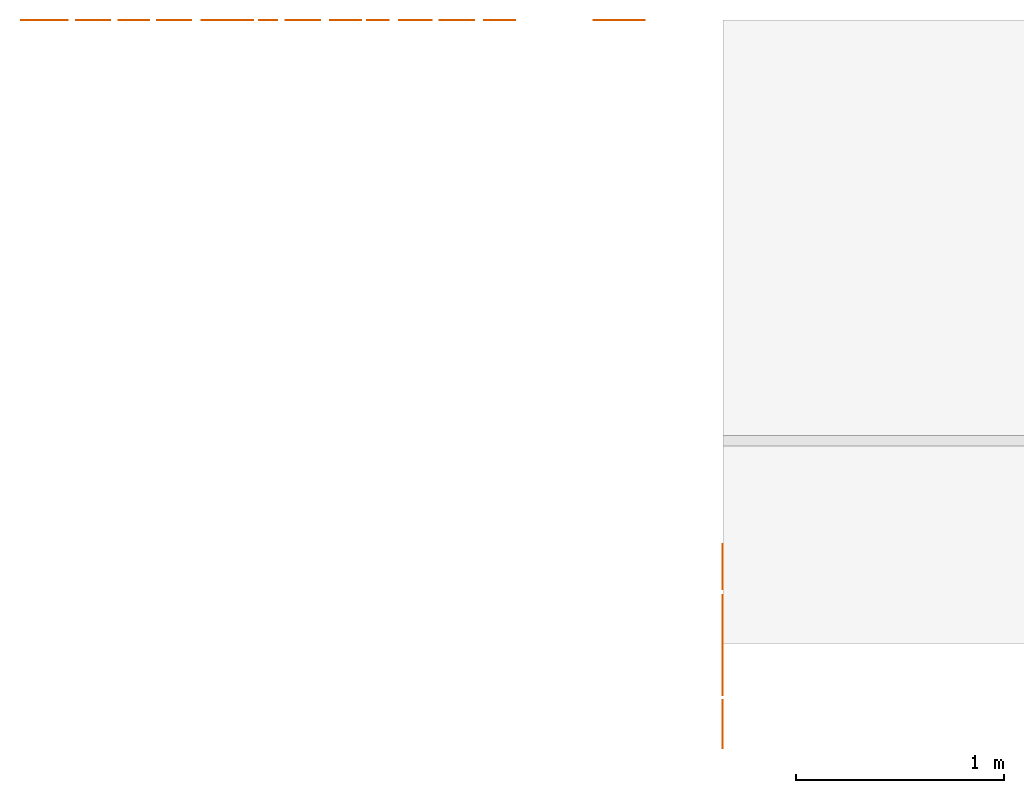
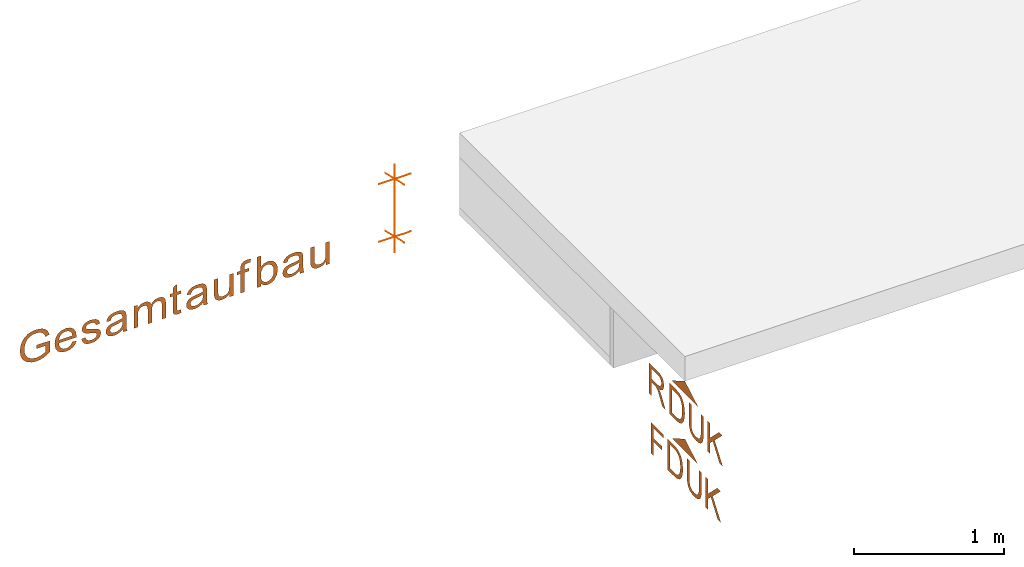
# One storey, part 3 of 3: 4 proxies, 4 elements without a shape of their own.
"""IFC4 building model written with IfcOpenShell, lengths in metres."""

from ifc_helpers import new_model, entity, si_unit, converted_unit, derived_unit, frame, origin, origin_with_axes, place, context, subcontext, project, spatial, open_shell, surface_model, source, transform, mapped, element, aggregate, save


model = new_model("IFC4")

# Units and contexts
model_context = context("Model", 3, precision=1e-05, world=origin())
body_context = subcontext(model_context, "Body", "Model", "MODEL_VIEW")
ifc_project = project(units=[si_unit("LENGTHUNIT", "METRE"), si_unit("AREAUNIT", "SQUARE_METRE"), si_unit("VOLUMEUNIT", "CUBIC_METRE"), si_unit("MASSUNIT", "GRAM", prefix="KILO"), converted_unit("PLANEANGLEUNIT", "DEGREE", entity("IfcPlaneAngleMeasure", 0.0174532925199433), si_unit("PLANEANGLEUNIT", "RADIAN"), dimensions=[0, 0, 0, 0, 0, 0, 0]), derived_unit("THERMALTRANSMITTANCEUNIT", [(si_unit("POWERUNIT", "WATT"), 1), (si_unit("THERMODYNAMICTEMPERATUREUNIT", "KELVIN"), -1), (si_unit("LENGTHUNIT", "METRE"), -2)]), derived_unit("VOLUMETRICFLOWRATEUNIT", [(si_unit("LENGTHUNIT", "METRE"), 3), (converted_unit("TIMEUNIT", "hour", entity("IfcTimeMeasure", 3600.0), si_unit("TIMEUNIT", "SECOND"), dimensions=[0, 0, 1, 0, 0, 0, 0]), -1), (si_unit("LENGTHUNIT", "METRE"), -1)])], contexts=[model_context])

# Site, building, storey
site_placement = place(None, origin())
site = spatial("IfcSite", under=ifc_project, at=site_placement, Name="Liegenschaft", CompositionType="ELEMENT")
building_placement = place(site_placement, origin())
building = spatial("IfcBuilding", under=site, at=building_placement, Name="Gebäude", CompositionType="ELEMENT")
storey_placement = place(building_placement, origin())
storey = spatial("IfcBuildingStorey", under=building, at=storey_placement, Name="Geschoss 01", CompositionType="ELEMENT", Elevation=0.0)

# Assembly, proxy
assembly_1_placement = place(storey_placement, origin())
assembly_1 = element("IfcElementAssembly", 1, at=assembly_1_placement, inside=storey, PredefinedType="NOTDEFINED")
shared_shape_1 = source(origin_with_axes(), body_context, "Body", "SurfaceModel", [
    surface_model("IfcShellBasedSurfaceModel", [(0.393, 0.506, 0.0), (0.293, 0.679205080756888, 0.0), (0.293, 0.332794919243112, 0.0)], [open_shell([[[0, 1, 2]]], orient=[[False]])]),
    surface_model("IfcShellBasedSurfaceModel", [(0.00399999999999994, 0.984, 0.0), (0.00399999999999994, 0.951, 0.0), (0.115, 0.951, 0.0), (0.115, 0.913, 0.0), (0.1145, 0.901625, 0.0), (0.114, 0.894, 0.0), (0.110875, 0.8865, 0.0), (0.107, 0.879, 0.0), (0.100875, 0.871375, 0.0), (0.0909999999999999, 0.863, 0.0), (0.0761249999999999, 0.85175, 0.0), (0.0559999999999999, 0.839, 0.0), (0.00399999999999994, 0.806, 0.0), (0.004, 0.765, 0.0), (0.0719999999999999, 0.808, 0.0), (0.0908749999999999, 0.8215, 0.0), (0.106, 0.835, 0.0), (0.112, 0.843875, 0.0), (0.118, 0.855, 0.0), (0.1265, 0.823625, 0.0), (0.141, 0.802, 0.0), (0.16125, 0.789, 0.0), (0.186, 0.785, 0.0), (0.206125, 0.78775, 0.0), (0.224, 0.795, 0.0), (0.2385, 0.807875, 0.0), (0.247, 0.823, 0.0), (0.252375, 0.84475, 0.0), (0.254, 0.874, 0.0), (0.254, 0.984, 0.0), (0.145, 0.860625, 0.0), (0.144, 0.88, 0.0), (0.144, 0.951, 0.0), (0.226, 0.951, 0.0), (0.226, 0.872, 0.0), (0.223125, 0.84825, 0.0), (0.215, 0.832, 0.0), (0.201625, 0.822125, 0.0), (0.186, 0.819, 0.0), (0.17425, 0.821, 0.0), (0.164, 0.826, 0.0), (0.15425, 0.834, 0.0), (0.149, 0.845, 0.0)], [open_shell([[[0, 1, 2, 3, 4, 5, 6, 7, 8, 9, 10, 11, 12, 13, 14, 15, 16, 17, 18, 19, 20, 21, 22, 23, 24, 25, 26, 27, 28, 29], [30, 31, 32, 33, 34, 35, 36, 37, 38, 39, 40, 41, 42]]], orient=[[False, False]])]),
    surface_model("IfcShellBasedSurfaceModel", [(0.004, 0.712, 0.0), (0.004, 0.623, 0.0), (0.00525, 0.601125, 0.0), (0.008, 0.583, 0.0), (0.014125, 0.5665, 0.0), (0.021, 0.553, 0.0), (0.030875, 0.54125, 0.0), (0.043, 0.531, 0.0), (0.06, 0.521, 0.0), (0.08, 0.514, 0.0), (0.103875, 0.508625, 0.0), (0.13, 0.507, 0.0), (0.16225, 0.50975, 0.0), (0.19, 0.517, 0.0), (0.214125, 0.528875, 0.0), (0.233, 0.546, 0.0), (0.243375, 0.5625, 0.0), (0.25, 0.582, 0.0), (0.253125, 0.6015, 0.0), (0.254, 0.627, 0.0), (0.254, 0.712, 0.0), (0.034, 0.60475, 0.0), (0.033, 0.626, 0.0), (0.033, 0.679, 0.0), (0.225, 0.679, 0.0), (0.225, 0.627, 0.0), (0.223625, 0.6015, 0.0), (0.22, 0.585, 0.0), (0.208875, 0.567625, 0.0), (0.191, 0.554, 0.0), (0.1655, 0.544125, 0.0), (0.131, 0.541, 0.0), (0.103875, 0.5425, 0.0), (0.082, 0.547, 0.0), (0.063875, 0.555375, 0.0), (0.051, 0.566, 0.0), (0.043, 0.575875, 0.0), (0.038, 0.588, 0.0)], [open_shell([[[0, 1, 2, 3, 4, 5, 6, 7, 8, 9, 10, 11, 12, 13, 14, 15, 16, 17, 18, 19, 20], [21, 22, 23, 24, 25, 26, 27, 28, 29, 30, 31, 32, 33, 34, 35, 36, 37]]], orient=[[False, False]])]),
    surface_model("IfcShellBasedSurfaceModel", [(0.254, 0.292, 0.0), (0.111, 0.292, 0.0), (0.071125, 0.29575, 0.0), (0.047, 0.307, 0.0), (0.034875, 0.32725, 0.0), (0.031, 0.358, 0.0), (0.033125, 0.3775, 0.0), (0.039, 0.394, 0.0), (0.0495, 0.40625, 0.0), (0.063, 0.414, 0.0), (0.0825, 0.4185, 0.0), (0.111, 0.42, 0.0), (0.254, 0.42, 0.0), (0.254, 0.454, 0.0), (0.11, 0.454, 0.0), (0.074, 0.45125, 0.0), (0.047, 0.444, 0.0), (0.0265, 0.4315, 0.0), (0.012, 0.413, 0.0), (0.003, 0.386625, 0.0), (0.0, 0.355, 0.0), (0.003625, 0.32225, 0.0), (0.0140000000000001, 0.297, 0.0), (0.0305000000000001, 0.278125, 0.0), (0.0500000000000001, 0.266, 0.0), (0.07625, 0.25975, 0.0), (0.11, 0.258, 0.0), (0.254, 0.258, 0.0)], [open_shell([[[0, 1, 2, 3, 4, 5, 6, 7, 8, 9, 10, 11, 12, 13, 14, 15, 16, 17, 18, 19, 20, 21, 22, 23, 24, 25, 26, 27]]], orient=[[False]])]),
    surface_model("IfcShellBasedSurfaceModel", [(0.00400000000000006, 0.207, 0.0), (0.00400000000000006, 0.174, 0.0), (0.0910000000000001, 0.174, 0.0), (0.13, 0.134, 0.0), (0.00400000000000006, 0.044, 0.0), (0.00400000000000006, 0.0, 0.0), (0.153, 0.11, 0.0), (0.254, 0.006, 0.0), (0.254, 0.051, 0.0), (0.132, 0.174, 0.0), (0.254, 0.174, 0.0), (0.254, 0.207, 0.0)], [open_shell([[[0, 1, 2, 3, 4, 5, 6, 7, 8, 9, 10, 11]]], orient=[[False]])]),
])
proxy_1_placement = place(assembly_1_placement, frame((236.15, -0.506, 2.107), z_axis=(-1.0, 0.0, 1.22464679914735e-16), x_axis=(1.22464679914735e-16, 0.0, 1.0)))
proxy_1 = element("IfcBuildingElementProxy", 2, at=proxy_1_placement, Name="RDUK", context=body_context, shape_type="MappedRepresentation", body=[
    mapped(shared_shape_1, transform((0.0, 0.0, 0.0), x_axis=(1.0, 0.0, 0.0), y_axis=(0.0, 1.0, 0.0), z_axis=(0.0, 0.0, 1.0), scale=1.0)),
])
aggregate(assembly_1, [proxy_1])

assembly_2_placement = place(storey_placement, origin())
assembly_2 = element("IfcElementAssembly", 3, at=assembly_2_placement, inside=storey, PredefinedType="NOTDEFINED")
shared_shape_2 = source(origin_with_axes(), body_context, "Body", "SurfaceModel", [
    surface_model("IfcShellBasedSurfaceModel", [(0.393, 0.4805, 0.0), (0.293, 0.653705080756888, 0.0), (0.293, 0.307294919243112, 0.0)], [open_shell([[[0, 1, 2]]], orient=[[False]])]),
    surface_model("IfcShellBasedSurfaceModel", [(0.00399999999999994, 0.933, 0.0), (0.00399999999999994, 0.9, 0.0), (0.118, 0.9, 0.0), (0.118, 0.783, 0.0), (0.147, 0.783, 0.0), (0.147, 0.9, 0.0), (0.225, 0.9, 0.0), (0.225, 0.765, 0.0), (0.254, 0.765, 0.0), (0.254, 0.933, 0.0)], [open_shell([[[0, 1, 2, 3, 4, 5, 6, 7, 8, 9]]], orient=[[False]])]),
    surface_model("IfcShellBasedSurfaceModel", [(0.004, 0.712, 0.0), (0.004, 0.623, 0.0), (0.00525, 0.601125, 0.0), (0.008, 0.583, 0.0), (0.014125, 0.5665, 0.0), (0.021, 0.553, 0.0), (0.030875, 0.54125, 0.0), (0.043, 0.531, 0.0), (0.06, 0.521, 0.0), (0.08, 0.514, 0.0), (0.103875, 0.508625, 0.0), (0.13, 0.507, 0.0), (0.16225, 0.50975, 0.0), (0.19, 0.517, 0.0), (0.214125, 0.528875, 0.0), (0.233, 0.546, 0.0), (0.243375, 0.5625, 0.0), (0.25, 0.582, 0.0), (0.253125, 0.6015, 0.0), (0.254, 0.627, 0.0), (0.254, 0.712, 0.0), (0.034, 0.60475, 0.0), (0.033, 0.626, 0.0), (0.033, 0.679, 0.0), (0.225, 0.679, 0.0), (0.225, 0.627, 0.0), (0.223625, 0.6015, 0.0), (0.22, 0.585, 0.0), (0.208875, 0.567625, 0.0), (0.191, 0.554, 0.0), (0.1655, 0.544125, 0.0), (0.131, 0.541, 0.0), (0.103875, 0.5425, 0.0), (0.082, 0.547, 0.0), (0.063875, 0.555375, 0.0), (0.051, 0.566, 0.0), (0.043, 0.575875, 0.0), (0.038, 0.588, 0.0)], [open_shell([[[0, 1, 2, 3, 4, 5, 6, 7, 8, 9, 10, 11, 12, 13, 14, 15, 16, 17, 18, 19, 20], [21, 22, 23, 24, 25, 26, 27, 28, 29, 30, 31, 32, 33, 34, 35, 36, 37]]], orient=[[False, False]])]),
    surface_model("IfcShellBasedSurfaceModel", [(0.254, 0.292, 0.0), (0.111, 0.292, 0.0), (0.071125, 0.29575, 0.0), (0.047, 0.307, 0.0), (0.034875, 0.32725, 0.0), (0.031, 0.358, 0.0), (0.033125, 0.3775, 0.0), (0.039, 0.394, 0.0), (0.0495, 0.40625, 0.0), (0.063, 0.414, 0.0), (0.0825, 0.4185, 0.0), (0.111, 0.42, 0.0), (0.254, 0.42, 0.0), (0.254, 0.454, 0.0), (0.11, 0.454, 0.0), (0.074, 0.45125, 0.0), (0.047, 0.444, 0.0), (0.0265, 0.4315, 0.0), (0.012, 0.413, 0.0), (0.003, 0.386625, 0.0), (0.0, 0.355, 0.0), (0.003625, 0.32225, 0.0), (0.014, 0.297, 0.0), (0.0305, 0.278125, 0.0), (0.05, 0.266, 0.0), (0.07625, 0.25975, 0.0), (0.11, 0.258, 0.0), (0.254, 0.258, 0.0)], [open_shell([[[0, 1, 2, 3, 4, 5, 6, 7, 8, 9, 10, 11, 12, 13, 14, 15, 16, 17, 18, 19, 20, 21, 22, 23, 24, 25, 26, 27]]], orient=[[False]])]),
    surface_model("IfcShellBasedSurfaceModel", [(0.00400000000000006, 0.207, 0.0), (0.00400000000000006, 0.174, 0.0), (0.0910000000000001, 0.174, 0.0), (0.13, 0.134, 0.0), (0.00400000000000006, 0.044, 0.0), (0.00400000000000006, 0.0, 0.0), (0.153, 0.11, 0.0), (0.254, 0.006, 0.0), (0.254, 0.051, 0.0), (0.132, 0.174, 0.0), (0.254, 0.174, 0.0), (0.254, 0.207, 0.0)], [open_shell([[[0, 1, 2, 3, 4, 5, 6, 7, 8, 9, 10, 11]]], orient=[[False]])]),
])
proxy_2_placement = place(assembly_2_placement, frame((236.15, -0.4805, 1.637), z_axis=(-1.0, 0.0, 1.22464679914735e-16), x_axis=(1.22464679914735e-16, 0.0, 1.0)))
proxy_2 = element("IfcBuildingElementProxy", 4, at=proxy_2_placement, Name="FDUK", context=body_context, shape_type="MappedRepresentation", body=[
    mapped(shared_shape_2, transform((0.0, 0.0, 0.0), x_axis=(1.0, 0.0, 0.0), y_axis=(0.0, 1.0, 0.0), z_axis=(0.0, 0.0, 1.0), scale=1.0)),
])
aggregate(assembly_2, [proxy_2])

assembly_3_placement = place(storey_placement, origin())
assembly_3 = element("IfcElementAssembly", 5, at=assembly_3_placement, inside=storey, PredefinedType="NOTDEFINED")
shared_shape_3 = source(origin_with_axes(), body_context, "Axis", "Curve3D", [
    entity("IfcPolyline", [entity("IfcCartesianPoint", [0.05, 0.05, 0.0]), entity("IfcCartesianPoint", [0.2, 0.2, 0.0])]),
    entity("IfcPolyline", [entity("IfcCartesianPoint", [0.125, 0.0, 0.0]), entity("IfcCartesianPoint", [0.125, 0.25, 0.0])]),
    entity("IfcPolyline", [entity("IfcCartesianPoint", [0.52, 0.05, 0.0]), entity("IfcCartesianPoint", [0.67, 0.2, 0.0])]),
    entity("IfcPolyline", [entity("IfcCartesianPoint", [0.595, 0.0, 0.0]), entity("IfcCartesianPoint", [0.595, 0.25, 0.0])]),
    entity("IfcPolyline", [entity("IfcCartesianPoint", [0.0, 0.125, 0.0]), entity("IfcCartesianPoint", [0.72, 0.125, 0.0])]),
])
proxy_3_placement = place(assembly_3_placement, frame((235.525, 3.0, 2.625), z_axis=(1.22464679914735e-16, -1.0, 1.49975978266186e-32), x_axis=(1.22464679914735e-16, 0.0, -1.0)))
proxy_3 = element("IfcBuildingElementProxy", 6, at=proxy_3_placement, Name="macro", context=body_context, shape_type="MappedRepresentation", body=[
    mapped(shared_shape_3, transform((0.0, 0.0, 0.0), x_axis=(1.0, 0.0, 0.0), y_axis=(0.0, 1.0, 0.0), z_axis=(0.0, 0.0, 1.0), scale=1.0)),
])
aggregate(assembly_3, [proxy_3])

assembly_4_placement = place(storey_placement, origin())
assembly_4 = element("IfcElementAssembly", 7, at=assembly_4_placement, inside=storey, PredefinedType="NOTDEFINED")
shared_shape_4 = source(origin_with_axes(), body_context, "Body", "SurfaceModel", [
    surface_model("IfcShellBasedSurfaceModel", [(0.108, 2.757, 0.0), (0.108, 2.685, 0.0), (0.0609999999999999, 2.685, 0.0), (0.0519999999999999, 2.697875, 0.0), (0.0429999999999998, 2.716, 0.0), (0.0367499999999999, 2.7365, 0.0), (0.0349999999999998, 2.757, 0.0), (0.0378749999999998, 2.781125, 0.0), (0.0459999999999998, 2.803, 0.0), (0.0602499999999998, 2.822625, 0.0), (0.0789999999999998, 2.837, 0.0), (0.10475, 2.8455, 0.0), (0.135, 2.848, 0.0), (0.161125, 2.84575, 0.0), (0.185, 2.839, 0.0), (0.198625, 2.83175, 0.0), (0.21, 2.823, 0.0), (0.2205, 2.811125, 0.0), (0.228, 2.797, 0.0), (0.233375, 2.77825, 0.0), (0.235, 2.758, 0.0), (0.233, 2.739875, 0.0), (0.228, 2.724, 0.0), (0.220625, 2.70975, 0.0), (0.211, 2.7, 0.0), (0.1975, 2.69225, 0.0), (0.181, 2.686, 0.0), (0.189, 2.656, 0.0), (0.213, 2.664, 0.0), (0.231, 2.675, 0.0), (0.2445, 2.68975, 0.0), (0.255, 2.709, 0.0), (0.26175, 2.732375, 0.0), (0.264, 2.758, 0.0), (0.26025, 2.793125, 0.0), (0.249, 2.823, 0.0), (0.228875, 2.84875, 0.0), (0.202, 2.867, 0.0), (0.16875, 2.87825, 0.0), (0.134, 2.882, 0.0), (0.0986249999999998, 2.87825, 0.0), (0.0669999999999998, 2.867, 0.0), (0.0407499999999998, 2.8475, 0.0), (0.0219999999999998, 2.822, 0.0), (0.00987499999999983, 2.79, 0.0), (0.00599999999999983, 2.755, 0.0), (0.00874999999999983, 2.728125, 0.0), (0.0159999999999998, 2.702, 0.0), (0.0278749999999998, 2.67625, 0.0), (0.0449999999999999, 2.652, 0.0), (0.137, 2.652, 0.0), (0.137, 2.757, 0.0)], [open_shell([[[0, 1, 2, 3, 4, 5, 6, 7, 8, 9, 10, 11, 12, 13, 14, 15, 16, 17, 18, 19, 20, 21, 22, 23, 24, 25, 26, 27, 28, 29, 30, 31, 32, 33, 34, 35, 36, 37, 38, 39, 40, 41, 42, 43, 44, 45, 46, 47, 48, 49, 50, 51]]], orient=[[False]])]),
    surface_model("IfcShellBasedSurfaceModel", [(0.0679999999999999, 2.479, 0.0), (0.0513749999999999, 2.487875, 0.0), (0.0399999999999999, 2.499, 0.0), (0.0332499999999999, 2.512375, 0.0), (0.0309999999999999, 2.528, 0.0), (0.0352499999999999, 2.54975, 0.0), (0.0469999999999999, 2.567, 0.0), (0.0666249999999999, 2.578875, 0.0), (0.0929999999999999, 2.584, 0.0), (0.0929999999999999, 2.447, 0.0), (0.0977499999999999, 2.447, 0.0), (0.101, 2.447, 0.0), (0.14075, 2.452875, 0.0), (0.17, 2.47, 0.0), (0.188875, 2.497, 0.0), (0.195, 2.53, 0.0), (0.1885, 2.564625, 0.0), (0.17, 2.591, 0.0), (0.139375, 2.609, 0.0), (0.0989999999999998, 2.615, 0.0), (0.0592499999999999, 2.609125, 0.0), (0.0299999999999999, 2.592, 0.0), (0.0119999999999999, 2.56375, 0.0), (0.00599999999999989, 2.528, 0.0), (0.00974999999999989, 2.498625, 0.0), (0.0209999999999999, 2.476, 0.0), (0.0394999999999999, 2.458625, 0.0), (0.0639999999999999, 2.448, 0.0), (0.137625, 2.48275, 0.0), (0.118, 2.479, 0.0), (0.118, 2.583, 0.0), (0.139625, 2.577625, 0.0), (0.156, 2.567, 0.0), (0.16675, 2.55, 0.0), (0.17, 2.53, 0.0), (0.1655, 2.50825, 0.0), (0.152, 2.491, 0.0)], [open_shell([[[0, 1, 2, 3, 4, 5, 6, 7, 8, 9, 10, 11, 12, 13, 14, 15, 16, 17, 18, 19, 20, 21, 22, 23, 24, 25, 26, 27], [28, 29, 30, 31, 32, 33, 34, 35, 36]]], orient=[[False, False]])]),
    surface_model("IfcShellBasedSurfaceModel", [(0.0649999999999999, 2.41, 0.0), (0.0392499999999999, 2.401, 0.0), (0.0209999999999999, 2.386, 0.0), (0.00974999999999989, 2.363625, 0.0), (0.00599999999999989, 2.333, 0.0), (0.00799999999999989, 2.312875, 0.0), (0.0129999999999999, 2.295, 0.0), (0.0227499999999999, 2.27975, 0.0), (0.0339999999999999, 2.269, 0.0), (0.0484999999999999, 2.26225, 0.0), (0.0629999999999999, 2.26, 0.0), (0.0778749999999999, 2.262125, 0.0), (0.0889999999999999, 2.268, 0.0), (0.0988749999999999, 2.276875, 0.0), (0.105, 2.288, 0.0), (0.11175, 2.306, 0.0), (0.12, 2.333, 0.0), (0.125125, 2.351, 0.0), (0.128, 2.36, 0.0), (0.131625, 2.367, 0.0), (0.136, 2.371, 0.0), (0.1415, 2.374125, 0.0), (0.147, 2.375, 0.0), (0.15575, 2.37275, 0.0), (0.163, 2.366, 0.0), (0.168375, 2.354125, 0.0), (0.17, 2.337, 0.0), (0.167875, 2.32125, 0.0), (0.162, 2.31, 0.0), (0.152125, 2.30175, 0.0), (0.14, 2.298, 0.0), (0.144, 2.267, 0.0), (0.16025, 2.271375, 0.0), (0.172, 2.278, 0.0), (0.182, 2.287625, 0.0), (0.189, 2.301, 0.0), (0.1935, 2.31925, 0.0), (0.195, 2.339, 0.0), (0.19375, 2.35325, 0.0), (0.191, 2.366, 0.0), (0.18725, 2.377, 0.0), (0.182, 2.385, 0.0), (0.174625, 2.394, 0.0), (0.165, 2.4, 0.0), (0.154375, 2.4045, 0.0), (0.143, 2.406, 0.0), (0.13025, 2.404, 0.0), (0.119, 2.399, 0.0), (0.109, 2.390125, 0.0), (0.102, 2.379, 0.0), (0.0944999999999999, 2.36, 0.0), (0.0869999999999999, 2.332, 0.0), (0.0803749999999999, 2.312, 0.0), (0.0759999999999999, 2.301, 0.0), (0.0687499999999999, 2.293375, 0.0), (0.0599999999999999, 2.291, 0.0), (0.0488749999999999, 2.29375, 0.0), (0.0399999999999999, 2.301, 0.0), (0.0332499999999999, 2.313875, 0.0), (0.0309999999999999, 2.332, 0.0), (0.0337499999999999, 2.35075, 0.0), (0.0409999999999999, 2.365, 0.0), (0.0531249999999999, 2.37425, 0.0), (0.0689999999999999, 2.379, 0.0)], [open_shell([[[0, 1, 2, 3, 4, 5, 6, 7, 8, 9, 10, 11, 12, 13, 14, 15, 16, 17, 18, 19, 20, 21, 22, 23, 24, 25, 26, 27, 28, 29, 30, 31, 32, 33, 34, 35, 36, 37, 38, 39, 40, 41, 42, 43, 44, 45, 46, 47, 48, 49, 50, 51, 52, 53, 54, 55, 56, 57, 58, 59, 60, 61, 62, 63]]], orient=[[False]])]),
    surface_model("IfcShellBasedSurfaceModel", [(0.0203749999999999, 2.08975, 0.0), (0.00999999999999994, 2.086, 0.0), (0.00999999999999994, 2.055, 0.0), (0.0206249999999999, 2.059625, 0.0), (0.0319999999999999, 2.062, 0.0), (0.0514999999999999, 2.06375, 0.0), (0.0859999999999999, 2.064, 0.0), (0.127, 2.064, 0.0), (0.144375, 2.064625, 0.0), (0.155, 2.066, 0.0), (0.167, 2.06975, 0.0), (0.176, 2.075, 0.0), (0.18375, 2.084125, 0.0), (0.19, 2.097, 0.0), (0.194, 2.114125, 0.0), (0.195, 2.135, 0.0), (0.1935, 2.1575, 0.0), (0.189, 2.177, 0.0), (0.180625, 2.19275, 0.0), (0.17, 2.204, 0.0), (0.156, 2.212875, 0.0), (0.139, 2.218, 0.0), (0.135, 2.187, 0.0), (0.15225, 2.180125, 0.0), (0.162, 2.171, 0.0), (0.16825, 2.157625, 0.0), (0.17, 2.139, 0.0), (0.16725, 2.118, 0.0), (0.16, 2.103, 0.0), (0.14875, 2.09625, 0.0), (0.133, 2.094, 0.0), (0.12975, 2.094, 0.0), (0.125, 2.094, 0.0), (0.119125, 2.117125, 0.0), (0.114, 2.15, 0.0), (0.111625, 2.16575, 0.0), (0.11, 2.177, 0.0), (0.105375, 2.189625, 0.0), (0.0999999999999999, 2.2, 0.0), (0.0917499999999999, 2.209125, 0.0), (0.0819999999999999, 2.216, 0.0), (0.0699999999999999, 2.2205, 0.0), (0.0579999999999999, 2.222, 0.0), (0.0368749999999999, 2.21775, 0.0), (0.0209999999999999, 2.206, 0.0), (0.00974999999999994, 2.1855, 0.0), (0.00599999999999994, 2.159, 0.0), (0.00749999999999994, 2.14125, 0.0), (0.0119999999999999, 2.125, 0.0), (0.0202499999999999, 2.1085, 0.0), (0.0329999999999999, 2.092, 0.0), (0.0949999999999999, 2.115, 0.0), (0.101, 2.094, 0.0), (0.0899999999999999, 2.094, 0.0), (0.0714999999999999, 2.095375, 0.0), (0.0589999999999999, 2.099, 0.0), (0.0462499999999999, 2.108, 0.0), (0.0379999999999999, 2.12, 0.0), (0.0317499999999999, 2.13525, 0.0), (0.0299999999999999, 2.152, 0.0), (0.0321249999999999, 2.16825, 0.0), (0.0379999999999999, 2.18, 0.0), (0.0477499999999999, 2.18675, 0.0), (0.0589999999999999, 2.189, 0.0), (0.0667499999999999, 2.18775, 0.0), (0.0729999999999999, 2.185, 0.0), (0.0791249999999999, 2.178875, 0.0), (0.0829999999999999, 2.172, 0.0), (0.0867499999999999, 2.16075, 0.0), (0.0889999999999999, 2.145, 0.0)], [open_shell([[[0, 1, 2, 3, 4, 5, 6, 7, 8, 9, 10, 11, 12, 13, 14, 15, 16, 17, 18, 19, 20, 21, 22, 23, 24, 25, 26, 27, 28, 29, 30, 31, 32, 33, 34, 35, 36, 37, 38, 39, 40, 41, 42, 43, 44, 45, 46, 47, 48, 49, 50], [51, 52, 53, 54, 55, 56, 57, 58, 59, 60, 61, 62, 63, 64, 65, 66, 67, 68, 69]]], orient=[[False, False]])]),
    surface_model("IfcShellBasedSurfaceModel", [(0.00999999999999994, 2.007, 0.0), (0.00999999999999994, 1.976, 0.0), (0.104, 1.976, 0.0), (0.1255, 1.974625, 0.0), (0.141, 1.971, 0.0), (0.152875, 1.964125, 0.0), (0.161, 1.955, 0.0), (0.166375, 1.943, 0.0), (0.168, 1.931, 0.0), (0.16525, 1.916, 0.0), (0.158, 1.907, 0.0), (0.145125, 1.90075, 0.0), (0.127, 1.899, 0.0), (0.00999999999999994, 1.899, 0.0), (0.00999999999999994, 1.868, 0.0), (0.115, 1.868, 0.0), (0.139125, 1.8645, 0.0), (0.155, 1.855, 0.0), (0.164875, 1.840875, 0.0), (0.168, 1.823, 0.0), (0.166625, 1.81325, 0.0), (0.163, 1.805, 0.0), (0.156875, 1.798, 0.0), (0.15, 1.794, 0.0), (0.13925, 1.79175, 0.0), (0.124, 1.791, 0.0), (0.00999999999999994, 1.791, 0.0), (0.00999999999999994, 1.76, 0.0), (0.134, 1.76, 0.0), (0.161125, 1.76375, 0.0), (0.18, 1.775, 0.0), (0.19125, 1.7925, 0.0), (0.195, 1.816, 0.0), (0.186875, 1.84825, 0.0), (0.163, 1.873, 0.0), (0.1765, 1.8805, 0.0), (0.187, 1.891, 0.0), (0.19325, 1.906, 0.0), (0.195, 1.924, 0.0), (0.192875, 1.941125, 0.0), (0.187, 1.956, 0.0), (0.177125, 1.969, 0.0), (0.165, 1.979, 0.0), (0.191, 1.979, 0.0), (0.191, 2.007, 0.0)], [open_shell([[[0, 1, 2, 3, 4, 5, 6, 7, 8, 9, 10, 11, 12, 13, 14, 15, 16, 17, 18, 19, 20, 21, 22, 23, 24, 25, 26, 27, 28, 29, 30, 31, 32, 33, 34, 35, 36, 37, 38, 39, 40, 41, 42, 43, 44]]], orient=[[False]])]),
    surface_model("IfcShellBasedSurfaceModel", [(0.038, 1.645, 0.0), (0.037125, 1.65275, 0.0), (0.037, 1.659, 0.0), (0.037625, 1.66475, 0.0), (0.039, 1.669, 0.0), (0.042, 1.672625, 0.0), (0.045, 1.674, 0.0), (0.051625, 1.67575, 0.0), (0.062, 1.676, 0.0), (0.167, 1.676, 0.0), (0.167, 1.645, 0.0), (0.191, 1.645, 0.0), (0.191, 1.676, 0.0), (0.254, 1.676, 0.0), (0.236, 1.707, 0.0), (0.191, 1.707, 0.0), (0.191, 1.73, 0.0), (0.167, 1.73, 0.0), (0.167, 1.707, 0.0), (0.063, 1.707, 0.0), (0.0405, 1.70575, 0.0), (0.0269999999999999, 1.703, 0.0), (0.01925, 1.697625, 0.0), (0.013, 1.69, 0.0), (0.009, 1.678875, 0.0), (0.008, 1.664, 0.0), (0.00875, 1.652875, 0.0), (0.011, 1.641, 0.0)], [open_shell([[[0, 1, 2, 3, 4, 5, 6, 7, 8, 9, 10, 11, 12, 13, 14, 15, 16, 17, 18, 19, 20, 21, 22, 23, 24, 25, 26, 27]]], orient=[[False]])]),
    surface_model("IfcShellBasedSurfaceModel", [(0.020375, 1.47075, 0.0), (0.01, 1.467, 0.0), (0.01, 1.436, 0.0), (0.020625, 1.440625, 0.0), (0.032, 1.443, 0.0), (0.0515, 1.44475, 0.0), (0.086, 1.445, 0.0), (0.127, 1.445, 0.0), (0.144375, 1.445625, 0.0), (0.155, 1.447, 0.0), (0.167, 1.45075, 0.0), (0.176, 1.456, 0.0), (0.18375, 1.465125, 0.0), (0.19, 1.478, 0.0), (0.194, 1.495125, 0.0), (0.195, 1.516, 0.0), (0.1935, 1.5385, 0.0), (0.189, 1.558, 0.0), (0.180625, 1.57375, 0.0), (0.17, 1.585, 0.0), (0.156, 1.593875, 0.0), (0.139, 1.599, 0.0), (0.135, 1.568, 0.0), (0.15225, 1.561125, 0.0), (0.162, 1.552, 0.0), (0.16825, 1.538625, 0.0), (0.17, 1.52, 0.0), (0.16725, 1.499, 0.0), (0.16, 1.484, 0.0), (0.14875, 1.47725, 0.0), (0.133, 1.475, 0.0), (0.12975, 1.475, 0.0), (0.125, 1.475, 0.0), (0.119125, 1.498125, 0.0), (0.114, 1.531, 0.0), (0.111625, 1.54675, 0.0), (0.11, 1.558, 0.0), (0.105375, 1.570625, 0.0), (0.1, 1.581, 0.0), (0.09175, 1.590125, 0.0), (0.082, 1.597, 0.0), (0.07, 1.6015, 0.0), (0.058, 1.603, 0.0), (0.036875, 1.59875, 0.0), (0.021, 1.587, 0.0), (0.00975, 1.5665, 0.0), (0.006, 1.54, 0.0), (0.0075, 1.52225, 0.0), (0.012, 1.506, 0.0), (0.02025, 1.4895, 0.0), (0.033, 1.473, 0.0), (0.095, 1.496, 0.0), (0.101, 1.475, 0.0), (0.09, 1.475, 0.0), (0.0715, 1.476375, 0.0), (0.059, 1.48, 0.0), (0.04625, 1.489, 0.0), (0.038, 1.501, 0.0), (0.03175, 1.51625, 0.0), (0.03, 1.533, 0.0), (0.032125, 1.54925, 0.0), (0.038, 1.561, 0.0), (0.04775, 1.56775, 0.0), (0.059, 1.57, 0.0), (0.06675, 1.56875, 0.0), (0.073, 1.566, 0.0), (0.079125, 1.559875, 0.0), (0.083, 1.553, 0.0), (0.08675, 1.54175, 0.0), (0.089, 1.526, 0.0)], [open_shell([[[0, 1, 2, 3, 4, 5, 6, 7, 8, 9, 10, 11, 12, 13, 14, 15, 16, 17, 18, 19, 20, 21, 22, 23, 24, 25, 26, 27, 28, 29, 30, 31, 32, 33, 34, 35, 36, 37, 38, 39, 40, 41, 42, 43, 44, 45, 46, 47, 48, 49, 50], [51, 52, 53, 54, 55, 56, 57, 58, 59, 60, 61, 62, 63, 64, 65, 66, 67, 68, 69]]], orient=[[False, False]])]),
    surface_model("IfcShellBasedSurfaceModel", [(0.0100000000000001, 1.269, 0.0), (0.0100000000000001, 1.241, 0.0), (0.191, 1.241, 0.0), (0.191, 1.272, 0.0), (0.094, 1.272, 0.0), (0.073, 1.273375, 0.0), (0.058, 1.277, 0.0), (0.047, 1.284, 0.0), (0.039, 1.294, 0.0), (0.033625, 1.306625, 0.0), (0.032, 1.32, 0.0), (0.034, 1.3335, 0.0), (0.039, 1.344, 0.0), (0.047375, 1.3515, 0.0), (0.058, 1.356, 0.0), (0.07025, 1.35775, 0.0), (0.09, 1.358, 0.0), (0.191, 1.358, 0.0), (0.191, 1.389, 0.0), (0.079, 1.389, 0.0), (0.0615, 1.388375, 0.0), (0.05, 1.387, 0.0), (0.037875, 1.38325, 0.0), (0.028, 1.378, 0.0), (0.018875, 1.369, 0.0), (0.012, 1.357, 0.0), (0.0075, 1.342, 0.0), (0.006, 1.327, 0.0), (0.0135, 1.293875, 0.0), (0.036, 1.269, 0.0)], [open_shell([[[0, 1, 2, 3, 4, 5, 6, 7, 8, 9, 10, 11, 12, 13, 14, 15, 16, 17, 18, 19, 20, 21, 22, 23, 24, 25, 26, 27, 28, 29]]], orient=[[False]])]),
    surface_model("IfcShellBasedSurfaceModel", [(0.0100000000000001, 1.186, 0.0), (0.0100000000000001, 1.155, 0.0), (0.167, 1.155, 0.0), (0.167, 1.12, 0.0), (0.191, 1.12, 0.0), (0.191, 1.155, 0.0), (0.208, 1.155, 0.0), (0.221625, 1.1535, 0.0), (0.23, 1.149, 0.0), (0.2345, 1.140875, 0.0), (0.236, 1.129, 0.0), (0.235375, 1.12, 0.0), (0.234, 1.111, 0.0), (0.261, 1.106, 0.0), (0.26325, 1.121625, 0.0), (0.264, 1.135, 0.0), (0.262, 1.15325, 0.0), (0.257, 1.167, 0.0), (0.24775, 1.17675, 0.0), (0.237, 1.182, 0.0), (0.22575, 1.185125, 0.0), (0.21, 1.186, 0.0), (0.191, 1.186, 0.0), (0.191, 1.212, 0.0), (0.167, 1.212, 0.0), (0.167, 1.186, 0.0)], [open_shell([[[0, 1, 2, 3, 4, 5, 6, 7, 8, 9, 10, 11, 12, 13, 14, 15, 16, 17, 18, 19, 20, 21, 22, 23, 24, 25]]], orient=[[False]])]),
    surface_model("IfcShellBasedSurfaceModel", [(0.0100000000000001, 1.029, 0.0), (0.0330000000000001, 1.029, 0.0), (0.0127500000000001, 1.007375, 0.0), (0.00600000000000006, 0.979, 0.0), (0.0125000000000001, 0.948375, 0.0), (0.0310000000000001, 0.923, 0.0), (0.0625000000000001, 0.9055, 0.0), (0.103, 0.9, 0.0), (0.122625, 0.901375, 0.0), (0.14, 0.905, 0.0), (0.156, 0.91225, 0.0), (0.169, 0.921, 0.0), (0.180375, 0.9315, 0.0), (0.188, 0.945, 0.0), (0.193375, 0.960625, 0.0), (0.195, 0.977, 0.0), (0.189, 1.004625, 0.0), (0.171, 1.027, 0.0), (0.26, 1.027, 0.0), (0.26, 1.058, 0.0), (0.0100000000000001, 1.058, 0.0), (0.0740000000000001, 1.02775, 0.0), (0.102, 1.03, 0.0), (0.13125, 1.02625, 0.0), (0.153, 1.015, 0.0), (0.166, 0.998625, 0.0), (0.17, 0.98, 0.0), (0.165625, 0.961, 0.0), (0.153, 0.945, 0.0), (0.131125, 0.93425, 0.0), (0.101, 0.931, 0.0), (0.0701250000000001, 0.93475, 0.0), (0.0490000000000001, 0.946, 0.0), (0.0355000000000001, 0.962375, 0.0), (0.0310000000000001, 0.981, 0.0), (0.0370000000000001, 1.003625, 0.0), (0.0550000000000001, 1.021, 0.0)], [open_shell([[[0, 1, 2, 3, 4, 5, 6, 7, 8, 9, 10, 11, 12, 13, 14, 15, 16, 17, 18, 19, 20], [21, 22, 23, 24, 25, 26, 27, 28, 29, 30, 31, 32, 33, 34, 35, 36]]], orient=[[False, False]])]),
    surface_model("IfcShellBasedSurfaceModel", [(0.0203750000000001, 0.72975, 0.0), (0.0100000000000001, 0.726, 0.0), (0.0100000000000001, 0.695000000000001, 0.0), (0.0206250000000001, 0.699625, 0.0), (0.0320000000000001, 0.702000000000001, 0.0), (0.0515000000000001, 0.70375, 0.0), (0.0860000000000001, 0.704000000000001, 0.0), (0.127, 0.704000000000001, 0.0), (0.144375, 0.704625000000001, 0.0), (0.155, 0.706000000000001, 0.0), (0.167, 0.70975, 0.0), (0.176, 0.715000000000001, 0.0), (0.18375, 0.724125, 0.0), (0.19, 0.737, 0.0), (0.194, 0.754125, 0.0), (0.195, 0.775, 0.0), (0.1935, 0.7975, 0.0), (0.189, 0.817000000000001, 0.0), (0.180625, 0.83275, 0.0), (0.17, 0.844000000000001, 0.0), (0.156, 0.852875, 0.0), (0.139, 0.858, 0.0), (0.135, 0.827000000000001, 0.0), (0.15225, 0.820125, 0.0), (0.162, 0.811, 0.0), (0.16825, 0.797625, 0.0), (0.17, 0.779, 0.0), (0.16725, 0.758, 0.0), (0.16, 0.743, 0.0), (0.14875, 0.736250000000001, 0.0), (0.133, 0.734, 0.0), (0.12975, 0.734, 0.0), (0.125, 0.734, 0.0), (0.119125, 0.757125, 0.0), (0.114, 0.79, 0.0), (0.111625, 0.805750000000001, 0.0), (0.11, 0.817000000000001, 0.0), (0.105375, 0.829625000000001, 0.0), (0.1, 0.840000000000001, 0.0), (0.0917500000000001, 0.849125, 0.0), (0.0820000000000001, 0.856, 0.0), (0.0700000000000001, 0.8605, 0.0), (0.0580000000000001, 0.862, 0.0), (0.0368750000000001, 0.85775, 0.0), (0.0210000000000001, 0.846, 0.0), (0.00975000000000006, 0.8255, 0.0), (0.00600000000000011, 0.799, 0.0), (0.00750000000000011, 0.78125, 0.0), (0.0120000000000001, 0.765, 0.0), (0.0202500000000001, 0.7485, 0.0), (0.0330000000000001, 0.732, 0.0), (0.0950000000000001, 0.755, 0.0), (0.101, 0.734, 0.0), (0.0900000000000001, 0.734, 0.0), (0.0715000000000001, 0.735375, 0.0), (0.0590000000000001, 0.739, 0.0), (0.0462500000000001, 0.748, 0.0), (0.0380000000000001, 0.76, 0.0), (0.0317500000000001, 0.77525, 0.0), (0.0300000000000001, 0.792, 0.0), (0.0321250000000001, 0.80825, 0.0), (0.0380000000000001, 0.820000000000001, 0.0), (0.0477500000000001, 0.82675, 0.0), (0.0590000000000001, 0.829000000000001, 0.0), (0.0667500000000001, 0.82775, 0.0), (0.0730000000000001, 0.825000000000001, 0.0), (0.0791250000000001, 0.818875, 0.0), (0.0830000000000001, 0.812, 0.0), (0.0867500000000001, 0.800750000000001, 0.0), (0.0890000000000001, 0.785, 0.0)], [open_shell([[[0, 1, 2, 3, 4, 5, 6, 7, 8, 9, 10, 11, 12, 13, 14, 15, 16, 17, 18, 19, 20, 21, 22, 23, 24, 25, 26, 27, 28, 29, 30, 31, 32, 33, 34, 35, 36, 37, 38, 39, 40, 41, 42, 43, 44, 45, 46, 47, 48, 49, 50], [51, 52, 53, 54, 55, 56, 57, 58, 59, 60, 61, 62, 63, 64, 65, 66, 67, 68, 69]]], orient=[[False, False]])]),
    surface_model("IfcShellBasedSurfaceModel", [(0.0100000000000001, 0.528, 0.0), (0.0100000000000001, 0.5, 0.0), (0.191, 0.5, 0.0), (0.191, 0.531, 0.0), (0.0940000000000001, 0.531, 0.0), (0.0730000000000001, 0.532375, 0.0), (0.0580000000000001, 0.536, 0.0), (0.0470000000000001, 0.543, 0.0), (0.0390000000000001, 0.553, 0.0), (0.0336250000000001, 0.565625, 0.0), (0.0320000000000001, 0.579000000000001, 0.0), (0.0340000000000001, 0.5925, 0.0), (0.0390000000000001, 0.603, 0.0), (0.0473750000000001, 0.6105, 0.0), (0.0580000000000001, 0.615, 0.0), (0.0702500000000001, 0.61675, 0.0), (0.0900000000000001, 0.617, 0.0), (0.191, 0.617, 0.0), (0.191, 0.648, 0.0), (0.0790000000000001, 0.648, 0.0), (0.0615000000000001, 0.647375, 0.0), (0.0500000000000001, 0.646, 0.0), (0.0378750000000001, 0.64225, 0.0), (0.0280000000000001, 0.637, 0.0), (0.0188750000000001, 0.628, 0.0), (0.0120000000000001, 0.616, 0.0), (0.00750000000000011, 0.601, 0.0), (0.00600000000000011, 0.586000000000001, 0.0), (0.0135000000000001, 0.552875, 0.0), (0.0360000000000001, 0.528, 0.0)], [open_shell([[[0, 1, 2, 3, 4, 5, 6, 7, 8, 9, 10, 11, 12, 13, 14, 15, 16, 17, 18, 19, 20, 21, 22, 23, 24, 25, 26, 27, 28, 29]]], orient=[[False]])]),
])
proxy_4_placement = place(assembly_4_placement, frame((235.65, 3.0, 1.97632486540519), z_axis=(-1.22464679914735e-16, -1.0, 1.49975978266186e-32), x_axis=(1.22464679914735e-16, 0.0, 1.0)))
proxy_4 = element("IfcBuildingElementProxy", 8, at=proxy_4_placement, Name="macro", context=body_context, shape_type="MappedRepresentation", body=[
    mapped(shared_shape_4, transform((0.0, 0.0, 0.0), x_axis=(1.0, 0.0, 0.0), y_axis=(0.0, 1.0, 0.0), z_axis=(0.0, 0.0, 1.0), scale=1.0)),
])
aggregate(assembly_4, [proxy_4])

save(model, "model.ifc")
